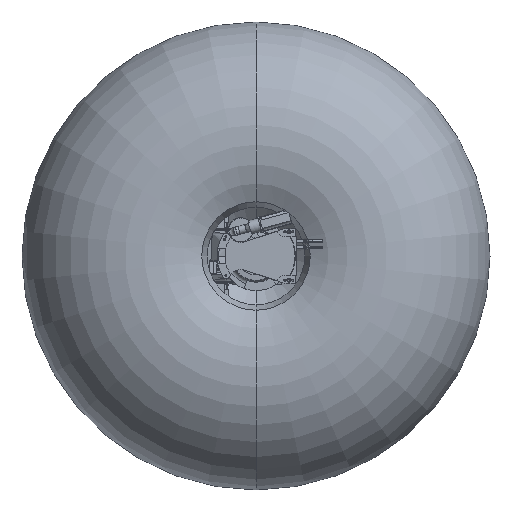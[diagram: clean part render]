
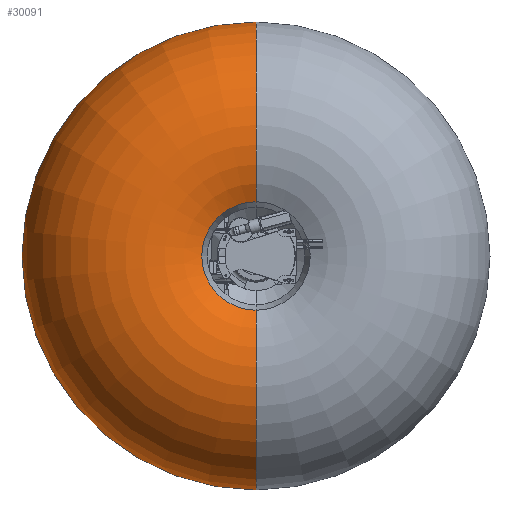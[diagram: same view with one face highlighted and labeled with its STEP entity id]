
A CAD part, front view. The second image highlights one B-rep face of the part: STEP entity #30091.
In plain terms, the highlighted toroidal (fillet/blend) face has major radius 1474.22 mm and minor radius 1530.56 mm.
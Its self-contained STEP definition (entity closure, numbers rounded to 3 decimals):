
#29980 = VERTEX_POINT ( 'NONE', #164590 ) ;
#30055 = VERTEX_POINT ( 'NONE', #164900 ) ;
#30073 = EDGE_CURVE ( 'NONE', #29980, #30137, #164841, .T. ) ;
#30089 = EDGE_CURVE ( 'NONE', #30055, #30143, #164931, .T. ) ;
#30091 = ADVANCED_FACE ( 'NONE', ( #164923 ), #165004, .T. ) ;
#30096 = EDGE_LOOP ( 'NONE', ( #30100, #30160, #30167, #30170 ) ) ;
#30100 = ORIENTED_EDGE ( 'NONE', *, *, #30073, .F. ) ;
#30137 = VERTEX_POINT ( 'NONE', #165018 ) ;
#30142 = EDGE_CURVE ( 'NONE', #30137, #30143, #165131, .T. ) ;
#30143 = VERTEX_POINT ( 'NONE', #165124 ) ;
#30160 = ORIENTED_EDGE ( 'NONE', *, *, #30164, .T. ) ;
#30164 = EDGE_CURVE ( 'NONE', #29980, #30055, #165170, .T. ) ;
#30167 = ORIENTED_EDGE ( 'NONE', *, *, #30089, .T. ) ;
#30170 = ORIENTED_EDGE ( 'NONE', *, *, #30142, .F. ) ;
#164590 = CARTESIAN_POINT ( 'NONE',  ( 0., 1262.425, 2997.475 ) ) ;
#164841 = CIRCLE ( 'NONE', #164960, 1530.555 ) ;
#164900 = CARTESIAN_POINT ( 'NONE',  ( 0., 1262.425, -2997.475 ) ) ;
#164923 = FACE_OUTER_BOUND ( 'NONE', #30096, .T. ) ;
#164925 = DIRECTION ( 'NONE',  ( 0., 0., 1. ) ) ;
#164926 = DIRECTION ( 'NONE',  ( -1., 0., 0. ) ) ;
#164928 = CARTESIAN_POINT ( 'NONE',  ( 0., 1411.76, -1474.222 ) ) ;
#164929 = AXIS2_PLACEMENT_3D ( 'NONE', #164928, #164926, #164925 ) ;
#164931 = CIRCLE ( 'NONE', #164929, 1530.555 ) ;
#164957 = DIRECTION ( 'NONE',  ( 0., 0., -1. ) ) ;
#164958 = DIRECTION ( 'NONE',  ( 1., 0., 0. ) ) ;
#164959 = CARTESIAN_POINT ( 'NONE',  ( 0., 1411.76, 1474.222 ) ) ;
#164960 = AXIS2_PLACEMENT_3D ( 'NONE', #164959, #164958, #164957 ) ;
#165000 = DIRECTION ( 'NONE',  ( 0., 0., -1. ) ) ;
#165001 = DIRECTION ( 'NONE',  ( 0., -1., 0. ) ) ;
#165002 = AXIS2_PLACEMENT_3D ( 'NONE', #165008, #165001, #165000 ) ;
#165004 = TOROIDAL_SURFACE ( 'NONE', #165002, 1474.222, 1530.555 ) ;
#165008 = CARTESIAN_POINT ( 'NONE',  ( 0., 1411.76, 0. ) ) ;
#165018 = CARTESIAN_POINT ( 'NONE',  ( 0., 94.336, 695.124 ) ) ;
#165124 = CARTESIAN_POINT ( 'NONE',  ( 0., 94.336, -695.124 ) ) ;
#165125 = DIRECTION ( 'NONE',  ( 0., 0., -1. ) ) ;
#165126 = DIRECTION ( 'NONE',  ( 0., -1., 0. ) ) ;
#165127 = CARTESIAN_POINT ( 'NONE',  ( 0., 94.336, 0. ) ) ;
#165129 = AXIS2_PLACEMENT_3D ( 'NONE', #165127, #165126, #165125 ) ;
#165131 = CIRCLE ( 'NONE', #165129, 695.124 ) ;
#165165 = DIRECTION ( 'NONE',  ( 0., 0., -1. ) ) ;
#165167 = DIRECTION ( 'NONE',  ( 0., -1., 0. ) ) ;
#165168 = CARTESIAN_POINT ( 'NONE',  ( 0., 1262.425, 0. ) ) ;
#165169 = AXIS2_PLACEMENT_3D ( 'NONE', #165168, #165167, #165165 ) ;
#165170 = CIRCLE ( 'NONE', #165169, 2997.475 ) ;
